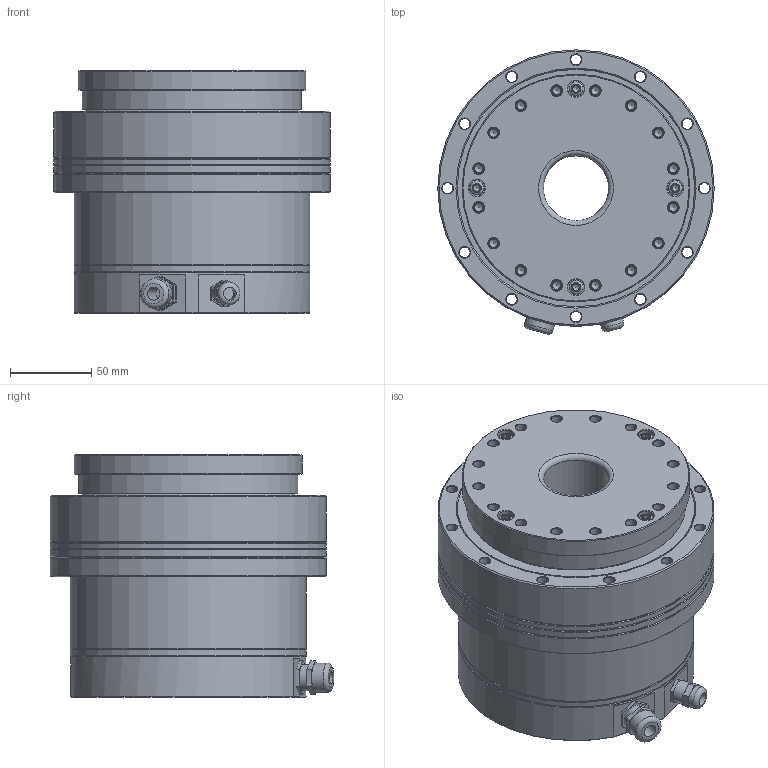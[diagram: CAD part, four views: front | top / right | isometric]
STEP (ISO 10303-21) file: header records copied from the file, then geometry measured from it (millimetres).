
FILE_DESCRIPTION(/* description */ (''),/* implementation_level */ '2;1');
FILE_NAME(/* name */ 'MIS40D-BS-C00.stp',/* time_stamp */ '2025-04-17T15:49:45+08:00',/* author */ (''),/* organization */ (''),/* preprocessor_version */ 'ST-DEVELOPER v16.7',/* originating_system */ 'SIEMENS PLM Software NX 12.0',/* authorisation */ '');
FILE_SCHEMA (('AUTOMOTIVE_DESIGN { 1 0 10303 214 3 1 1 1 }'));
Length unit declared in the file: millimetre
Products named in the file (1): MIS40D-BS-C00
Bounding box: 170 x 174.62 x 149 mm (x, y, z)
Volume: 1210547.5 mm3; surface area: 510717.6 mm2
Topology: 42 solids, 44 shells, 1946 faces, 4220 edges, 2461 vertices
Faces by surface type: cone 798, plane 645, cylinder 429, torus 74
Full cylindrical faces by diameter (mm): 1.25 x8, 1.6 x4, 2 x2, 2.5 x24, 2.874 x12, 3.3 x30, 3.5 x6, 3.838 x12, 4.2 x8, 4.3 x4, 4.5 x30, 4.826 x4, 5 x22, 5.2 x4, 5.5 x14, 6 x6, 6.5 x12, 6.6 x68, 7 x12, 8 x18, 8.5 x4, 10 x8, 12 x3, 14 x2, 16 x4, 18 x1, 40 x1, 42 x1, 43 x1, 44.8 x1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
Entity records: 47158 total; most frequent: DIRECTION 8483, CARTESIAN_POINT 8273, ORIENTED_EDGE 5844, AXIS2_PLACEMENT_3D 3804, EDGE_LOOP 3374, EDGE_CURVE 2922, FACE_BOUND 2688, VERTEX_POINT 2258
